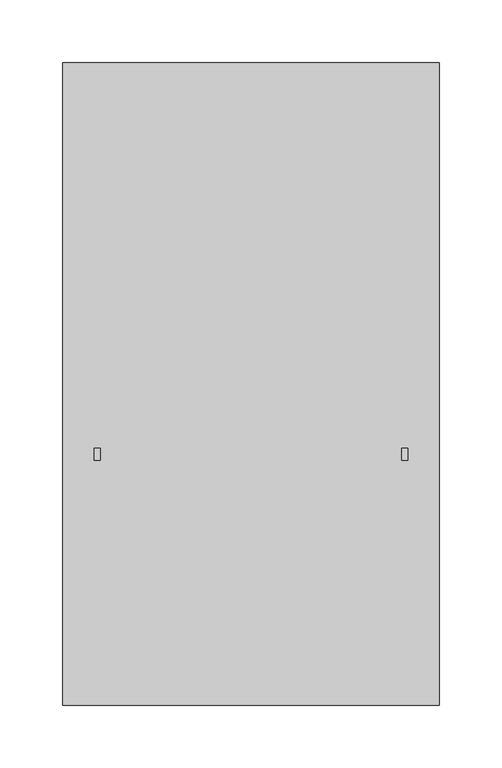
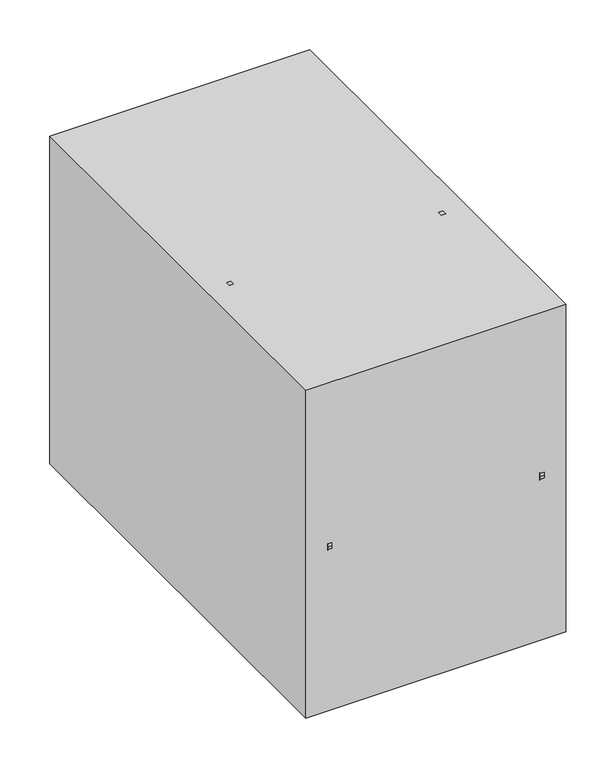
"""IFC4 building model written with IfcOpenShell, lengths in millimetres: damper geometry, КлапанДымовойКруглый_НЗ_LVR : КлапанДымовойКруглый_НЗ_LVR."""

from ifc_helpers import new_model, si_unit, frame, origin, place, context, project, spatial, polyline, circle_curve, outline, extrude, source, transform, mapped, element, save
from ifc_brep_helpers import plane_surface, cylinder_surface, advanced_brep


def damper_ba747da2(model_context):
    return source(origin(), model_context, "Body", "SolidModel", [
        extrude(outline(polyline([(57.0, 312.0), (57.0, 150.0), (-105.0, 150.0), (-105.0, 312.0), (57.0, 312.0)])), frame((0.0, 0.0, -52.0), z_axis=(0.0, 0.0, 1.0), x_axis=(1.0, 0.0, 0.0)), (0.0, 0.0, 1.0), 104.0),
        advanced_brep(
        [(125.0, -200.0, 0.0), (125.0, 200.0, 0.0), (-125.0, -200.0, 0.0), (-125.0, 200.0, 0.0), (120.0, 200.0, 0.0), (120.0, -200.0, 0.0), (120.0, -150.0, 0.0), (120.0, 150.0, 0.0), (-120.0, -200.0, 0.0), (-120.0, 200.0, 0.0), (-120.0, -150.0, 0.0), (-120.0, 150.0, 0.0)],
        [
            (0, 1, circle_curve(frame((125.0, 0.0, 0.0), z_axis=(1.0, 0.0, 0.0), x_axis=(0.0, 1.0, 0.0)), 200.0)),
            (1, 0, circle_curve(frame((125.0, 0.0, 0.0), z_axis=(1.0, 0.0, 0.0), x_axis=(0.0, 1.0, 0.0)), 200.0)),
            (2, 3, circle_curve(frame((-125.0, 0.0, 0.0), z_axis=(-1.0, 0.0, 0.0), x_axis=(0.0, 1.0, 0.0)), 200.0)),
            (3, 2, circle_curve(frame((-125.0, 0.0, 0.0), z_axis=(-1.0, 0.0, 0.0), x_axis=(0.0, 1.0, 0.0)), 200.0)),
            (4, 5, circle_curve(frame((120.0, 0.0, 0.0), z_axis=(-1.0, 0.0, 0.0), x_axis=(0.0, 1.0, 0.0)), 200.0)),
            (5, 4, circle_curve(frame((120.0, 0.0, 0.0), z_axis=(-1.0, 0.0, 0.0), x_axis=(0.0, 1.0, 0.0)), 200.0)),
            (6, 7, circle_curve(frame((120.0, 0.0, 0.0), z_axis=(1.0, 0.0, 0.0), x_axis=(0.0, 1.0, 0.0)), 150.0)),
            (7, 6, circle_curve(frame((120.0, 0.0, 0.0), z_axis=(1.0, 0.0, 0.0), x_axis=(0.0, 1.0, 0.0)), 150.0)),
            (8, 9, circle_curve(frame((-120.0, 0.0, 0.0), z_axis=(1.0, 0.0, 0.0), x_axis=(0.0, 1.0, 0.0)), 200.0)),
            (9, 8, circle_curve(frame((-120.0, 0.0, 0.0), z_axis=(1.0, 0.0, 0.0), x_axis=(0.0, 1.0, 0.0)), 200.0)),
            (10, 11, circle_curve(frame((-120.0, 0.0, 0.0), z_axis=(-1.0, 0.0, 0.0), x_axis=(0.0, 1.0, 0.0)), 150.0)),
            (11, 10, circle_curve(frame((-120.0, 0.0, 0.0), z_axis=(-1.0, 0.0, 0.0), x_axis=(0.0, 1.0, 0.0)), 150.0)),
            (0, 5),
            (4, 1),
            (3, 9),
            (8, 2),
            (7, 11),
            (10, 6),
        ],
        [
            plane_surface(frame((125.0, 200.0, 0.0), z_axis=(1.0, 0.0, 0.0), x_axis=(0.0, 0.0, 1.0))),
            plane_surface(frame((-125.0, 200.0, 0.0), z_axis=(-1.0, 0.0, 0.0), x_axis=(0.0, 0.0, -1.0))),
            plane_surface(frame((120.0, 200.0, 0.0), z_axis=(-1.0, 0.0, 0.0), x_axis=(0.0, 0.0, 1.0))),
            plane_surface(frame((-120.0, 200.0, 0.0), z_axis=(1.0, 0.0, 0.0), x_axis=(0.0, 0.0, -1.0))),
            cylinder_surface(frame((-125.0, 0.0, 0.0), z_axis=(1.0, 0.0, 0.0), x_axis=(0.0, 1.0, 0.0)), 200.0),
            cylinder_surface(frame((0.0, 0.0, 0.0), z_axis=(-1.0, 0.0, 0.0), x_axis=(0.0, 1.0, 0.0)), 150.0),
        ],
        [
            (0, [[1, 2]]),
            (1, [[3, 4]]),
            (2, [[5, 6], [7, 8]]),
            (3, [[9, 10], [11, 12]]),
            (4, [[-1, 13, -5, 14]]),
            (4, [[-4, 15, -9, 16]]),
            (4, [[-2, -14, -6, -13]]),
            (4, [[-3, -16, -10, -15]]),
            (5, [[-8, 17, -11, 18]]),
            (5, [[-7, -18, -12, -17]]),
        ],
    ),
        extrude(outline(polyline([(150.0, 312.0), (150.0, -200.0), (-150.0, -200.0), (-150.0, 312.0), (150.0, 312.0)])), frame((0.0, 0.0, -200.0), z_axis=(0.0, 0.0, 1.0), x_axis=(1.0, 0.0, 0.0)), (0.0, 0.0, 1.0), 400.0),
    ])


if __name__ == "__main__":
    model = new_model("IFC4")
    model_context = context("Model", 3, world=origin())
    ifc_project = project(units=[si_unit("LENGTHUNIT", "METRE", prefix="MILLI")], contexts=[model_context])
    site = spatial("IfcSite", under=ifc_project)
    building = spatial("IfcBuilding", under=site)
    placement = place(None, origin())
    damper_shape = damper_ba747da2(model_context)
    element("IfcDamper", 1, ObjectType="КлапанДымовойКруглый_НЗ_LVR : КлапанДымовойКруглый_НЗ_LVR", at=placement, inside=building, context=model_context, shape_type="MappedRepresentation", body=[
        mapped(damper_shape, transform((0.0, 0.0, 0.0), x_axis=(1.0, 0.0, 0.0), y_axis=(0.0, 1.0, 0.0), z_axis=(0.0, 0.0, 1.0))),
    ])
    save(model, "model.ifc")
